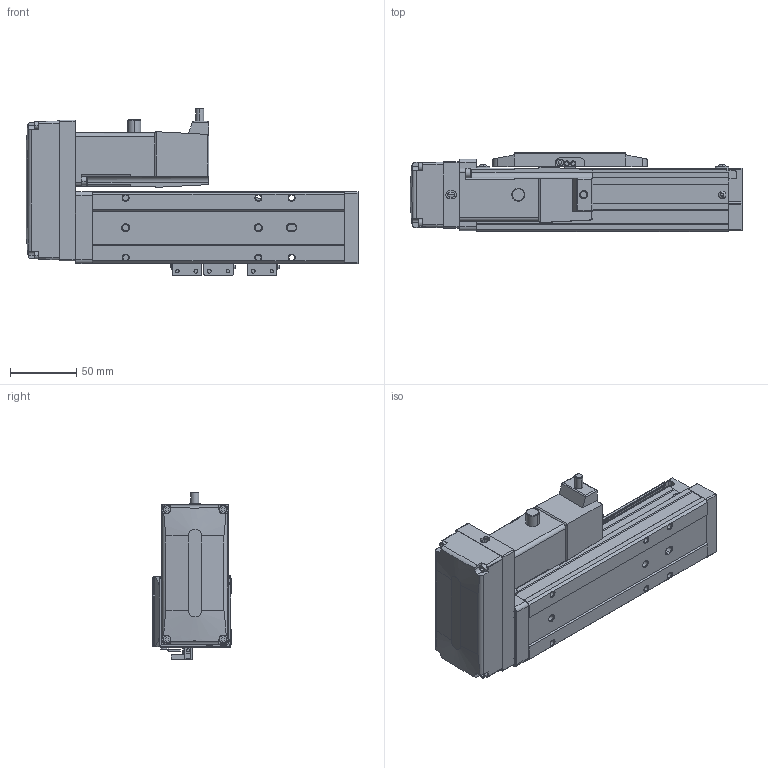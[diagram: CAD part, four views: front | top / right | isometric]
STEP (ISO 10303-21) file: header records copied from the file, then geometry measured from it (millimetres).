
FILE_DESCRIPTION (( 'STEP AP203' ), '1' );
FILE_NAME ('CTH5-L10-S50-BL-C10(¼ò).STEP', '2023-02-04T02:17:38', ( '' ), ( '' ), 'SwSTEP 2.0', 'SolidWorks 2018', '' );
FILE_SCHEMA (( 'CONFIG_CONTROL_DESIGN' ));
Length unit declared in the file: millimetre
Products named in the file (21): CTH5耜蚾蟀諉啣(潠); CTH5-L10-S50-BL-C10(潠); CTH5覜茼え; CTH5耜晚蹟隊; T10-p1; CTH5賑怢-2; 内六角圆柱头螺钉M3-2; PM-Y45; CTH100W假蚾啣; CTH5-BL-T10_body5; CTH嫖萇羲壽假蚾啣; hex nuts, style 1-grades ab gb_GB_FASTENER_NUT_SNAB1 M3-N; CTH5綴耜啣; 葩璃 蚾饜极13^CTH8-L10-S50-BM-C40(潠)1; M3｡｣; CTH5耜晚蹟隊-1; CTH5耜蚾欶; CTH5ヶ耜啣(潠); 100W萇儂; CTH5菁釱-L190; 嫖萇羲壽郪磁1
Assembly tree (35 placements, depth 3):
  CTH5-L10-S50-BL-C10(潠)
    CTH5綴耜啣
    CTH5賑怢-2
    CTH5ヶ耜啣(潠)
    CTH5菁釱-L190
    CTH5耜晚蹟隊  x2
    CTH5覜茼え
    CTH5耜晚蹟隊-1  x3
    CTH5耜蚾蟀諉啣(潠)
    CTH5耜蚾欶
      CTH5-BL-T10_body5
    100W萇儂
      T10-p1
    CTH100W假蚾啣
    葩璃 蚾饜极13^CTH8-L10-S50-BM-C40(潠)1  x2
      CTH嫖萇羲壽假蚾啣
      PM-Y45
      内六角圆柱头螺钉M3-2
      M3｡｣
      hex nuts, style 1-grades ab gb_GB_FASTENER_NUT_SNAB1 M3-N
    嫖萇羲壽郪磁1
      CTH嫖萇羲壽假蚾啣
      PM-Y45
      M3｡｣  x2
      内六角圆柱头螺钉M3-2  x2
      hex nuts, style 1-grades ab gb_GB_FASTENER_NUT_SNAB1 M3-N  x2
Bounding box: 250 x 60 x 126.31 mm (x, y, z)
Volume: 834874 mm3; surface area: 151808.9 mm2
Topology: 38 solids, 38 shells, 1548 faces, 3873 edges, 2508 vertices
Faces by surface type: plane 881, cylinder 452, cone 159, torus 38, bspline 18
Entity records: 35718 total; most frequent: CARTESIAN_POINT 6633, DIRECTION 5615, ORIENTED_EDGE 5418, EDGE_CURVE 2709, AXIS2_PLACEMENT_3D 1913, VECTOR 1789, LINE 1789, VERTEX_POINT 1752
